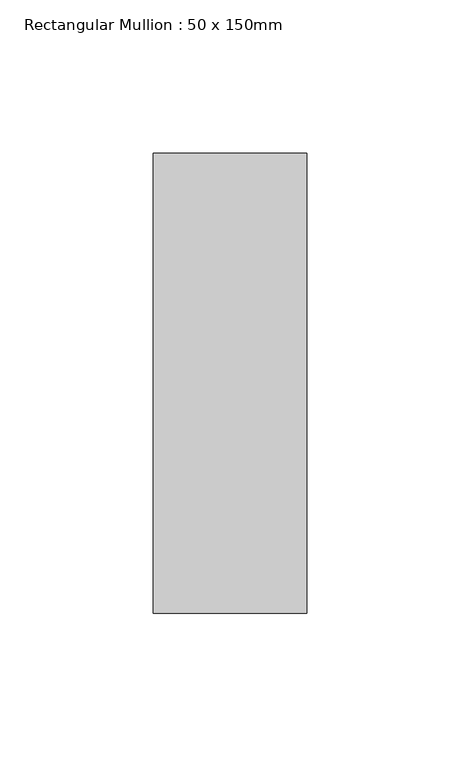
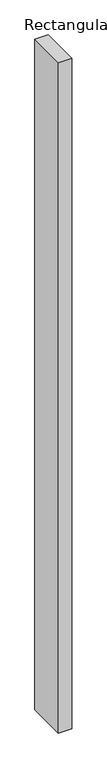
"""IFC4 building model written with IfcOpenShell, lengths in millimetres: member geometry, Rectangular Mullion : 50 x 150mm."""

from ifc_helpers import new_model, si_unit, frame, origin, place, context, project, spatial, polyline, outline, extrude, source, transform, mapped, element, save


def rectangular_mullion_50_x_150mm_350c86c2(model_context):
    return source(origin(), model_context, "Body", "SweptSolid", [
        extrude(outline(polyline([(0.0, 75.0), (0.0, -75.0), (-50.0, -75.0), (-50.0, 75.0), (0.0, 75.0)])), frame((0.0, 0.0, -2615.0), z_axis=(0.0, 0.0, 1.0), x_axis=(1.0, 0.0, 0.0)), (0.0, 0.0, 1.0), 2615.0),
    ])


if __name__ == "__main__":
    model = new_model("IFC4")
    model_context = context("Model", 3, world=origin())
    ifc_project = project(units=[si_unit("LENGTHUNIT", "METRE", prefix="MILLI")], contexts=[model_context])
    site = spatial("IfcSite", under=ifc_project)
    building = spatial("IfcBuilding", under=site)
    placement = place(None, origin())
    rectangular_mullion_50_x_150mm_shape = rectangular_mullion_50_x_150mm_350c86c2(model_context)
    element("IfcMember", 1, ObjectType="Rectangular Mullion : 50 x 150mm", at=placement, inside=building, context=model_context, shape_type="MappedRepresentation", body=[
        mapped(rectangular_mullion_50_x_150mm_shape, transform((0.0, 0.0, 0.0), x_axis=(1.0, 0.0, 0.0), y_axis=(0.0, 1.0, 0.0), z_axis=(0.0, 0.0, 1.0))),
    ])
    save(model, "model.ifc")
